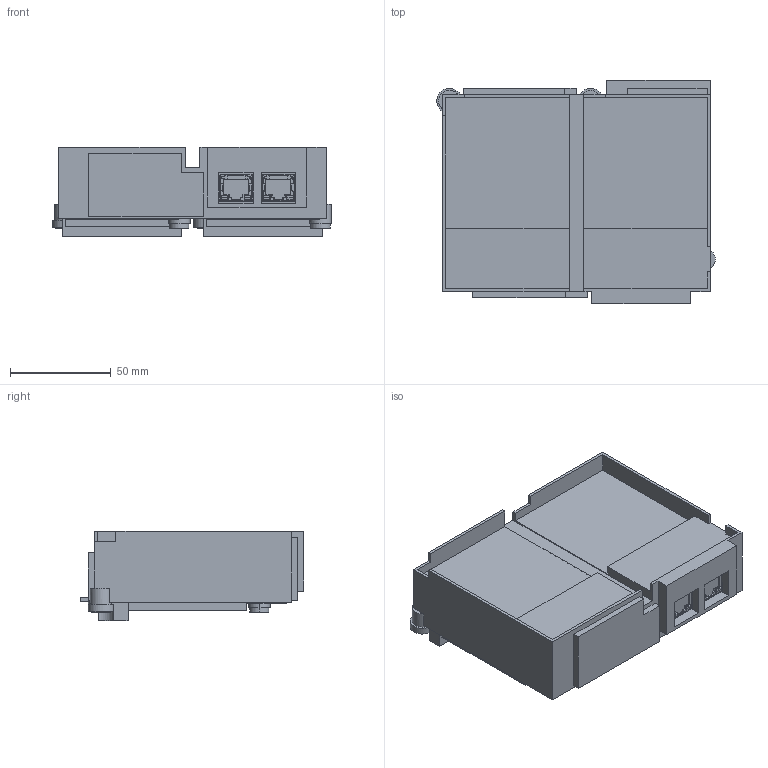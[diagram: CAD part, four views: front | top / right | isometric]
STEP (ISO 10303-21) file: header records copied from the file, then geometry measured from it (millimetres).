
FILE_DESCRIPTION((''),'2;1');
FILE_NAME('3D_WEB_DATA_J71GF13-T2','2011-01-13T',('RC55483'),('MITSUBISHI ELECTRIC ENINEERLING Co.,Ltd.'),'PRO/ENGINEER BY PARAMETRIC TECHNOLOGY CORPORATION, 2006510','PRO/ENGINEER BY PARAMETRIC TECHNOLOGY CORPORATION, 2006510','');
FILE_SCHEMA(('CONFIG_CONTROL_DESIGN'));
Length unit declared in the file: millimetre
Products named in the file (1): 3D_WEB_DATA_J71GF13-T2
Bounding box: 138.09 x 110.8 x 44.2 mm (x, y, z)
Volume: 418343.9 mm3; surface area: 54437.6 mm2
Topology: 1 solids, 1 shells, 664 faces, 1842 edges, 1160 vertices
Faces by surface type: plane 510, cylinder 110, sphere 24, torus 16, bspline 4
Entity records: 21226 total; most frequent: CARTESIAN_POINT 4150, ORIENTED_EDGE 3668, DIRECTION 3404, EDGE_CURVE 1834, VECTOR 1448, LINE 1448, VERTEX_POINT 1160, AXIS2_PLACEMENT_3D 978
